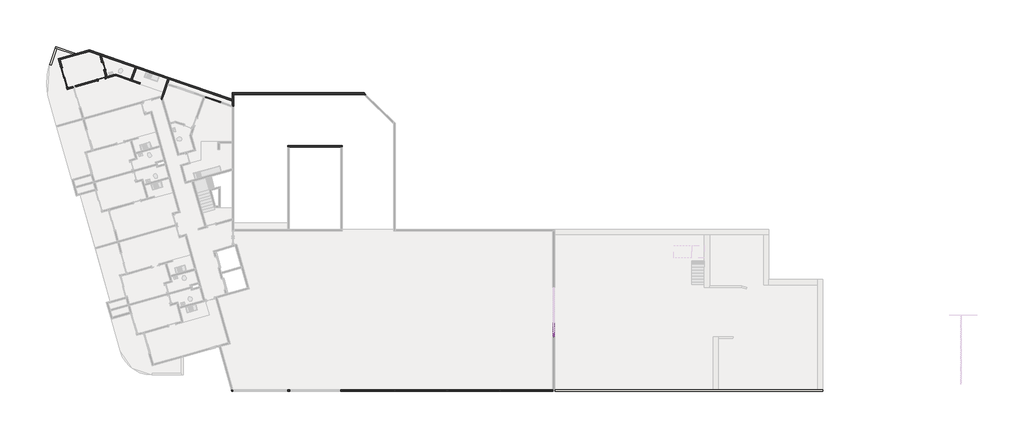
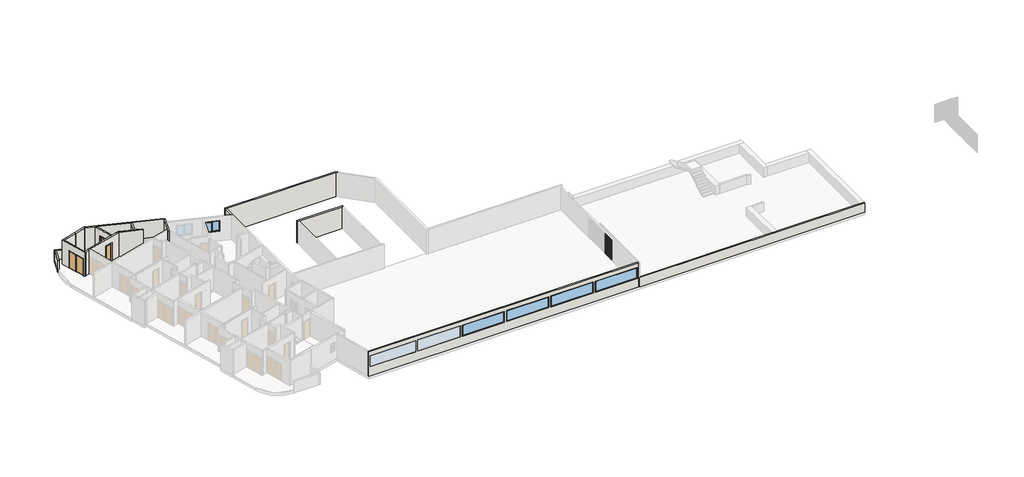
# One storey, part 3 of 9: 35 plates, 33 members, 18 walls, 5 windows, 3 doors.
"""IFC4 building model written with IfcOpenShell, lengths in millimetres."""

from ifc_helpers import new_model, si_unit, frame, origin, place, context, project, spatial, polyline, outline, extrude, faceted_brep, transform, mapped, element, save
from components import p3_70cm_ef4d15e3, p3_70cm_0a698c7c, p4_correr_200cm_eaaa0877, montante_retangular_30mm_quadrado_b6c22345, montante_retangular_30mm_quadrado_d4df406a, montante_retangular_30mm_quadrado_2d3e9df2, montante_retangular_30mm_quadrado_921f6540, montante_retangular_30mm_quadrado_d9064eb3, montante_retangular_30mm_quadrado_c456a22c, painel_do_sistema_vazio_vazio_88ac28ff, painel_do_sistema_vazio_vazio_aac5a565, painel_do_sistema_vazio_vazio_800e51c1, painel_do_sistema_vazio_vazio_54d91eb3, jx_160cm_e9e36a0c, m_fixo1_jf_4_75m_a83b1cd6

model = new_model("IFC4")

# Units and contexts
model_context = context("Model", 3, world=origin())
ifc_project = project(units=[si_unit("LENGTHUNIT", "METRE", prefix="MILLI")], contexts=[model_context])

# Site, building, storey
site = spatial("IfcSite", under=ifc_project)
building = spatial("IfcBuilding", under=site)
storey = spatial("IfcBuildingStorey", under=building, Name="Garagem 1", Elevation=47850.0)

# Doors
placement = place(None, origin())
p3_70cm_shape = p3_70cm_ef4d15e3(model_context)
element("IfcDoor", 1, ObjectType="M_Folha única1 : P3 - 70CM", at=placement, inside=storey, context=model_context, shape_type="MappedRepresentation", body=[
    mapped(p3_70cm_shape, transform((-87513.806232, 32980.5300491, 47850.0), x_axis=(0.9623628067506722, 0.2717679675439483, 0.0), y_axis=(-0.2717679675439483, 0.9623628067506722, 0.0), z_axis=(0.0, 0.0, 1.0))),
])
p3_70cm_2_shape = p3_70cm_0a698c7c(model_context)
element("IfcDoor", 2, ObjectType="M_Folha única1 : P3 - 70CM", at=placement, inside=storey, context=model_context, shape_type="MappedRepresentation", body=[
    mapped(p3_70cm_2_shape, transform((-87314.304722, 34205.8663896, 47850.0), x_axis=(-0.2717679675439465, 0.9623628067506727, 0.0), y_axis=(-0.9623628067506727, -0.2717679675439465, 0.0), z_axis=(0.0, 0.0, 1.0))),
])
p4_correr_200cm_shape = p4_correr_200cm_eaaa0877(model_context)
element("IfcDoor", 3, ObjectType="Porta de correr dupla envidraçada sem revestimento : P4 - CORRER - 200CM", at=placement, inside=storey, context=model_context, shape_type="MappedRepresentation", body=[
    mapped(p4_correr_200cm_shape, transform((-91005.8131296, 33111.4415743, 47850.0), x_axis=(0.2717679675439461, -0.9623628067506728, 0.0), y_axis=(0.9623628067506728, 0.2717679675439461, 0.0), z_axis=(0.0, 0.0, 1.0))),
])

# Members
montante_retangular_30mm_quadrado_shape = montante_retangular_30mm_quadrado_b6c22345(model_context)
element("IfcMember", 4, ObjectType="Montante retangular : 30mm Quadrado", at=placement, inside=storey, context=model_context, shape_type="MappedRepresentation", body=[
    mapped(montante_retangular_30mm_quadrado_shape, transform((-44730.8696428, 8741.5272612, 50350.0), x_axis=(0.0, 0.0, 1.0), y_axis=(1.0, 0.0, 0.0), z_axis=(0.0, 1.0, 0.0))),
])
montante_retangular_30mm_quadrado_2_shape = montante_retangular_30mm_quadrado_d4df406a(model_context)
element("IfcMember", 5, ObjectType="Montante retangular : 30mm Quadrado", at=placement, inside=storey, context=model_context, shape_type="MappedRepresentation", body=[
    mapped(montante_retangular_30mm_quadrado_2_shape, transform((-44730.8696428, 8937.004947, 50350.0), x_axis=(0.0, 0.0, 1.0), y_axis=(1.0, 0.0, 0.0), z_axis=(0.0, 1.0, 0.0))),
])
element("IfcMember", 6, ObjectType="Montante retangular : 30mm Quadrado", at=placement, inside=storey, context=model_context, shape_type="MappedRepresentation", body=[
    mapped(montante_retangular_30mm_quadrado_2_shape, transform((-44730.8696428, 9132.4826328, 50350.0), x_axis=(0.0, 0.0, 1.0), y_axis=(1.0, 0.0, 0.0), z_axis=(0.0, 1.0, 0.0))),
])
element("IfcMember", 7, ObjectType="Montante retangular : 30mm Quadrado", at=placement, inside=storey, context=model_context, shape_type="MappedRepresentation", body=[
    mapped(montante_retangular_30mm_quadrado_2_shape, transform((-44730.8696428, 9327.9603187, 50350.0), x_axis=(0.0, 0.0, 1.0), y_axis=(1.0, 0.0, 0.0), z_axis=(0.0, 1.0, 0.0))),
])
element("IfcMember", 8, ObjectType="Montante retangular : 30mm Quadrado", at=placement, inside=storey, context=model_context, shape_type="MappedRepresentation", body=[
    mapped(montante_retangular_30mm_quadrado_2_shape, transform((-44730.8696428, 9523.4380045, 50350.0), x_axis=(0.0, 0.0, 1.0), y_axis=(1.0, 0.0, 0.0), z_axis=(0.0, 1.0, 0.0))),
])
element("IfcMember", 9, ObjectType="Montante retangular : 30mm Quadrado", at=placement, inside=storey, context=model_context, shape_type="MappedRepresentation", body=[
    mapped(montante_retangular_30mm_quadrado_2_shape, transform((-44730.8696428, 9718.9156903, 50350.0), x_axis=(0.0, 0.0, 1.0), y_axis=(1.0, 0.0, 0.0), z_axis=(0.0, 1.0, 0.0))),
])
element("IfcMember", 10, ObjectType="Montante retangular : 30mm Quadrado", at=placement, inside=storey, context=model_context, shape_type="MappedRepresentation", body=[
    mapped(montante_retangular_30mm_quadrado_2_shape, transform((-44730.8696428, 9914.3933761, 50350.0), x_axis=(0.0, 0.0, 1.0), y_axis=(1.0, 0.0, 0.0), z_axis=(0.0, 1.0, 0.0))),
])
element("IfcMember", 11, ObjectType="Montante retangular : 30mm Quadrado", at=placement, inside=storey, context=model_context, shape_type="MappedRepresentation", body=[
    mapped(montante_retangular_30mm_quadrado_shape, transform((-44730.8696428, 8591.0495751, 47850.0), x_axis=(0.0, 0.0, -1.0), y_axis=(1.0, 0.0, 0.0), z_axis=(0.0, -1.0, 0.0))),
])
element("IfcMember", 12, ObjectType="Montante retangular : 30mm Quadrado", at=placement, inside=storey, context=model_context, shape_type="MappedRepresentation", body=[
    mapped(montante_retangular_30mm_quadrado_2_shape, transform((-44730.8696428, 8771.5272612, 47850.0), x_axis=(0.0, 0.0, -1.0), y_axis=(1.0, 0.0, 0.0), z_axis=(0.0, -1.0, 0.0))),
])
element("IfcMember", 13, ObjectType="Montante retangular : 30mm Quadrado", at=placement, inside=storey, context=model_context, shape_type="MappedRepresentation", body=[
    mapped(montante_retangular_30mm_quadrado_2_shape, transform((-44730.8696428, 8967.004947, 47850.0), x_axis=(0.0, 0.0, -1.0), y_axis=(1.0, 0.0, 0.0), z_axis=(0.0, -1.0, 0.0))),
])
montante_retangular_30mm_quadrado_3_shape = montante_retangular_30mm_quadrado_2d3e9df2(model_context)
element("IfcMember", 14, ObjectType="Montante retangular : 30mm Quadrado", at=placement, inside=storey, context=model_context, shape_type="MappedRepresentation", body=[
    mapped(montante_retangular_30mm_quadrado_3_shape, transform((-44730.8696428, 8741.5272612, 48350.0), x_axis=(0.0, 0.0, 1.0), y_axis=(1.0, 0.0, 0.0), z_axis=(0.0, 1.0, 0.0))),
])
element("IfcMember", 15, ObjectType="Montante retangular : 30mm Quadrado", at=placement, inside=storey, context=model_context, shape_type="MappedRepresentation", body=[
    mapped(montante_retangular_30mm_quadrado_3_shape, transform((-44730.8696428, 8741.5272612, 48850.0), x_axis=(0.0, 0.0, 1.0), y_axis=(1.0, 0.0, 0.0), z_axis=(0.0, 1.0, 0.0))),
])
element("IfcMember", 16, ObjectType="Montante retangular : 30mm Quadrado", at=placement, inside=storey, context=model_context, shape_type="MappedRepresentation", body=[
    mapped(montante_retangular_30mm_quadrado_3_shape, transform((-44730.8696428, 8741.5272612, 49350.0), x_axis=(0.0, 0.0, 1.0), y_axis=(1.0, 0.0, 0.0), z_axis=(0.0, 1.0, 0.0))),
])
element("IfcMember", 17, ObjectType="Montante retangular : 30mm Quadrado", at=placement, inside=storey, context=model_context, shape_type="MappedRepresentation", body=[
    mapped(montante_retangular_30mm_quadrado_3_shape, transform((-44730.8696428, 8741.5272612, 49850.0), x_axis=(0.0, 0.0, 1.0), y_axis=(1.0, 0.0, 0.0), z_axis=(0.0, 1.0, 0.0))),
])
montante_retangular_30mm_quadrado_4_shape = montante_retangular_30mm_quadrado_921f6540(model_context)
element("IfcMember", 18, ObjectType="Montante retangular : 30mm Quadrado", at=placement, inside=storey, context=model_context, shape_type="MappedRepresentation", body=[
    mapped(montante_retangular_30mm_quadrado_4_shape, transform((-44730.8696428, 8937.004947, 48350.0), x_axis=(0.0, 0.0, 1.0), y_axis=(1.0, 0.0, 0.0), z_axis=(0.0, 1.0, 0.0))),
])
element("IfcMember", 19, ObjectType="Montante retangular : 30mm Quadrado", at=placement, inside=storey, context=model_context, shape_type="MappedRepresentation", body=[
    mapped(montante_retangular_30mm_quadrado_4_shape, transform((-44730.8696428, 8937.004947, 48850.0), x_axis=(0.0, 0.0, 1.0), y_axis=(1.0, 0.0, 0.0), z_axis=(0.0, 1.0, 0.0))),
])
element("IfcMember", 20, ObjectType="Montante retangular : 30mm Quadrado", at=placement, inside=storey, context=model_context, shape_type="MappedRepresentation", body=[
    mapped(montante_retangular_30mm_quadrado_4_shape, transform((-44730.8696428, 8937.004947, 49350.0), x_axis=(0.0, 0.0, 1.0), y_axis=(1.0, 0.0, 0.0), z_axis=(0.0, 1.0, 0.0))),
])
element("IfcMember", 21, ObjectType="Montante retangular : 30mm Quadrado", at=placement, inside=storey, context=model_context, shape_type="MappedRepresentation", body=[
    mapped(montante_retangular_30mm_quadrado_4_shape, transform((-44730.8696428, 8937.004947, 49850.0), x_axis=(0.0, 0.0, 1.0), y_axis=(1.0, 0.0, 0.0), z_axis=(0.0, 1.0, 0.0))),
])
montante_retangular_30mm_quadrado_5_shape = montante_retangular_30mm_quadrado_d9064eb3(model_context)
element("IfcMember", 22, ObjectType="Montante retangular : 30mm Quadrado", at=placement, inside=storey, context=model_context, shape_type="MappedRepresentation", body=[
    mapped(montante_retangular_30mm_quadrado_5_shape, transform((-44730.8696428, 8756.5272612, 47850.0), x_axis=(0.0, 1.0, 0.0), y_axis=(1.0, 0.0, 0.0), z_axis=(0.0, 0.0, -1.0))),
])
element("IfcMember", 23, ObjectType="Montante retangular : 30mm Quadrado", at=placement, inside=storey, context=model_context, shape_type="MappedRepresentation", body=[
    mapped(montante_retangular_30mm_quadrado_5_shape, transform((-44730.8696428, 8952.004947, 47850.0), x_axis=(0.0, 1.0, 0.0), y_axis=(1.0, 0.0, 0.0), z_axis=(0.0, 0.0, -1.0))),
])
element("IfcMember", 24, ObjectType="Montante retangular : 30mm Quadrado", at=placement, inside=storey, context=model_context, shape_type="MappedRepresentation", body=[
    mapped(montante_retangular_30mm_quadrado_5_shape, transform((-44730.8696428, 8756.5272612, 48350.0), x_axis=(0.0, 1.0, 0.0), y_axis=(1.0, 0.0, 0.0), z_axis=(0.0, 0.0, -1.0))),
])
element("IfcMember", 25, ObjectType="Montante retangular : 30mm Quadrado", at=placement, inside=storey, context=model_context, shape_type="MappedRepresentation", body=[
    mapped(montante_retangular_30mm_quadrado_5_shape, transform((-44730.8696428, 8952.004947, 48350.0), x_axis=(0.0, 1.0, 0.0), y_axis=(1.0, 0.0, 0.0), z_axis=(0.0, 0.0, -1.0))),
])
element("IfcMember", 26, ObjectType="Montante retangular : 30mm Quadrado", at=placement, inside=storey, context=model_context, shape_type="MappedRepresentation", body=[
    mapped(montante_retangular_30mm_quadrado_5_shape, transform((-44730.8696428, 8756.5272612, 48850.0), x_axis=(0.0, 1.0, 0.0), y_axis=(1.0, 0.0, 0.0), z_axis=(0.0, 0.0, -1.0))),
])
element("IfcMember", 27, ObjectType="Montante retangular : 30mm Quadrado", at=placement, inside=storey, context=model_context, shape_type="MappedRepresentation", body=[
    mapped(montante_retangular_30mm_quadrado_5_shape, transform((-44730.8696428, 8952.004947, 48850.0), x_axis=(0.0, 1.0, 0.0), y_axis=(1.0, 0.0, 0.0), z_axis=(0.0, 0.0, -1.0))),
])
element("IfcMember", 28, ObjectType="Montante retangular : 30mm Quadrado", at=placement, inside=storey, context=model_context, shape_type="MappedRepresentation", body=[
    mapped(montante_retangular_30mm_quadrado_5_shape, transform((-44730.8696428, 8756.5272612, 49350.0), x_axis=(0.0, 1.0, 0.0), y_axis=(1.0, 0.0, 0.0), z_axis=(0.0, 0.0, -1.0))),
])
element("IfcMember", 29, ObjectType="Montante retangular : 30mm Quadrado", at=placement, inside=storey, context=model_context, shape_type="MappedRepresentation", body=[
    mapped(montante_retangular_30mm_quadrado_5_shape, transform((-44730.8696428, 8952.004947, 49350.0), x_axis=(0.0, 1.0, 0.0), y_axis=(1.0, 0.0, 0.0), z_axis=(0.0, 0.0, -1.0))),
])
element("IfcMember", 30, ObjectType="Montante retangular : 30mm Quadrado", at=placement, inside=storey, context=model_context, shape_type="MappedRepresentation", body=[
    mapped(montante_retangular_30mm_quadrado_5_shape, transform((-44730.8696428, 8756.5272612, 49850.0), x_axis=(0.0, 1.0, 0.0), y_axis=(1.0, 0.0, 0.0), z_axis=(0.0, 0.0, -1.0))),
])
element("IfcMember", 31, ObjectType="Montante retangular : 30mm Quadrado", at=placement, inside=storey, context=model_context, shape_type="MappedRepresentation", body=[
    mapped(montante_retangular_30mm_quadrado_5_shape, transform((-44730.8696428, 8952.004947, 49850.0), x_axis=(0.0, 1.0, 0.0), y_axis=(1.0, 0.0, 0.0), z_axis=(0.0, 0.0, -1.0))),
])
montante_retangular_30mm_quadrado_6_shape = montante_retangular_30mm_quadrado_c456a22c(model_context)
element("IfcMember", 32, ObjectType="Montante retangular : 30mm Quadrado", at=placement, inside=storey, context=model_context, shape_type="MappedRepresentation", body=[
    mapped(montante_retangular_30mm_quadrado_6_shape, transform((-44730.8696428, 8561.0495751, 50350.0), x_axis=(0.0, -1.0, 0.0), y_axis=(1.0, 0.0, 0.0), z_axis=(0.0, 0.0, 1.0))),
])
element("IfcMember", 33, ObjectType="Montante retangular : 30mm Quadrado", at=placement, inside=storey, context=model_context, shape_type="MappedRepresentation", body=[
    mapped(montante_retangular_30mm_quadrado_6_shape, transform((-44730.8696428, 8561.0495751, 48350.0), x_axis=(0.0, -1.0, 0.0), y_axis=(1.0, 0.0, 0.0), z_axis=(0.0, 0.0, 1.0))),
])
element("IfcMember", 34, ObjectType="Montante retangular : 30mm Quadrado", at=placement, inside=storey, context=model_context, shape_type="MappedRepresentation", body=[
    mapped(montante_retangular_30mm_quadrado_6_shape, transform((-44730.8696428, 8561.0495751, 48850.0), x_axis=(0.0, -1.0, 0.0), y_axis=(1.0, 0.0, 0.0), z_axis=(0.0, 0.0, 1.0))),
])
element("IfcMember", 35, ObjectType="Montante retangular : 30mm Quadrado", at=placement, inside=storey, context=model_context, shape_type="MappedRepresentation", body=[
    mapped(montante_retangular_30mm_quadrado_6_shape, transform((-44730.8696428, 8561.0495751, 49350.0), x_axis=(0.0, -1.0, 0.0), y_axis=(1.0, 0.0, 0.0), z_axis=(0.0, 0.0, 1.0))),
])
element("IfcMember", 36, ObjectType="Montante retangular : 30mm Quadrado", at=placement, inside=storey, context=model_context, shape_type="MappedRepresentation", body=[
    mapped(montante_retangular_30mm_quadrado_6_shape, transform((-44730.8696428, 8561.0495751, 49850.0), x_axis=(0.0, -1.0, 0.0), y_axis=(1.0, 0.0, 0.0), z_axis=(0.0, 0.0, 1.0))),
])

# Plates
painel_do_sistema_vazio_vazio_shape = painel_do_sistema_vazio_vazio_88ac28ff(model_context)
element("IfcPlate", 37, ObjectType="Painel do sistema vazio : Vazio", at=placement, inside=storey, context=model_context, shape_type="MappedRepresentation", body=[
    mapped(painel_do_sistema_vazio_vazio_shape, transform((-44730.8696428, 8666.2884181, 47880.0), x_axis=(0.0, 1.0, 0.0), y_axis=(-1.0, 0.0, 0.0), z_axis=(0.0, 0.0, 1.0))),
])
element("IfcPlate", 38, ObjectType="Painel do sistema vazio : Vazio", at=placement, inside=storey, context=model_context, shape_type="MappedRepresentation", body=[
    mapped(painel_do_sistema_vazio_vazio_shape, transform((-44730.8696428, 8666.2884181, 49865.0), x_axis=(0.0, 1.0, 0.0), y_axis=(-1.0, 0.0, 0.0), z_axis=(0.0, 0.0, 1.0))),
])
painel_do_sistema_vazio_vazio_2_shape = painel_do_sistema_vazio_vazio_aac5a565(model_context)
element("IfcPlate", 39, ObjectType="Painel do sistema vazio : Vazio", at=placement, inside=storey, context=model_context, shape_type="MappedRepresentation", body=[
    mapped(painel_do_sistema_vazio_vazio_2_shape, transform((-44730.8696428, 8854.2661041, 47880.0), x_axis=(0.0, 1.0, 0.0), y_axis=(-1.0, 0.0, 0.0), z_axis=(0.0, 0.0, 1.0))),
])
element("IfcPlate", 40, ObjectType="Painel do sistema vazio : Vazio", at=placement, inside=storey, context=model_context, shape_type="MappedRepresentation", body=[
    mapped(painel_do_sistema_vazio_vazio_2_shape, transform((-44730.8696428, 9049.7437899, 47880.0), x_axis=(0.0, 1.0, 0.0), y_axis=(-1.0, 0.0, 0.0), z_axis=(0.0, 0.0, 1.0))),
])
element("IfcPlate", 41, ObjectType="Painel do sistema vazio : Vazio", at=placement, inside=storey, context=model_context, shape_type="MappedRepresentation", body=[
    mapped(painel_do_sistema_vazio_vazio_2_shape, transform((-44730.8696428, 9245.2214757, 47880.0), x_axis=(0.0, 1.0, 0.0), y_axis=(-1.0, 0.0, 0.0), z_axis=(0.0, 0.0, 1.0))),
])
element("IfcPlate", 42, ObjectType="Painel do sistema vazio : Vazio", at=placement, inside=storey, context=model_context, shape_type="MappedRepresentation", body=[
    mapped(painel_do_sistema_vazio_vazio_2_shape, transform((-44730.8696428, 9440.6991616, 47880.0), x_axis=(0.0, 1.0, 0.0), y_axis=(-1.0, 0.0, 0.0), z_axis=(0.0, 0.0, 1.0))),
])
element("IfcPlate", 43, ObjectType="Painel do sistema vazio : Vazio", at=placement, inside=storey, context=model_context, shape_type="MappedRepresentation", body=[
    mapped(painel_do_sistema_vazio_vazio_2_shape, transform((-44730.8696428, 9636.1768474, 47880.0), x_axis=(0.0, 1.0, 0.0), y_axis=(-1.0, 0.0, 0.0), z_axis=(0.0, 0.0, 1.0))),
])
element("IfcPlate", 44, ObjectType="Painel do sistema vazio : Vazio", at=placement, inside=storey, context=model_context, shape_type="MappedRepresentation", body=[
    mapped(painel_do_sistema_vazio_vazio_2_shape, transform((-44730.8696428, 9831.6545332, 47880.0), x_axis=(0.0, 1.0, 0.0), y_axis=(-1.0, 0.0, 0.0), z_axis=(0.0, 0.0, 1.0))),
])
element("IfcPlate", 45, ObjectType="Painel do sistema vazio : Vazio", at=placement, inside=storey, context=model_context, shape_type="MappedRepresentation", body=[
    mapped(painel_do_sistema_vazio_vazio_2_shape, transform((-44730.8696428, 8854.2661041, 49865.0), x_axis=(0.0, 1.0, 0.0), y_axis=(-1.0, 0.0, 0.0), z_axis=(0.0, 0.0, 1.0))),
])
element("IfcPlate", 46, ObjectType="Painel do sistema vazio : Vazio", at=placement, inside=storey, context=model_context, shape_type="MappedRepresentation", body=[
    mapped(painel_do_sistema_vazio_vazio_2_shape, transform((-44730.8696428, 9049.7437899, 49865.0), x_axis=(0.0, 1.0, 0.0), y_axis=(-1.0, 0.0, 0.0), z_axis=(0.0, 0.0, 1.0))),
])
element("IfcPlate", 47, ObjectType="Painel do sistema vazio : Vazio", at=placement, inside=storey, context=model_context, shape_type="MappedRepresentation", body=[
    mapped(painel_do_sistema_vazio_vazio_2_shape, transform((-44730.8696428, 9245.2214757, 49865.0), x_axis=(0.0, 1.0, 0.0), y_axis=(-1.0, 0.0, 0.0), z_axis=(0.0, 0.0, 1.0))),
])
element("IfcPlate", 48, ObjectType="Painel do sistema vazio : Vazio", at=placement, inside=storey, context=model_context, shape_type="MappedRepresentation", body=[
    mapped(painel_do_sistema_vazio_vazio_2_shape, transform((-44730.8696428, 9440.6991616, 49865.0), x_axis=(0.0, 1.0, 0.0), y_axis=(-1.0, 0.0, 0.0), z_axis=(0.0, 0.0, 1.0))),
])
element("IfcPlate", 49, ObjectType="Painel do sistema vazio : Vazio", at=placement, inside=storey, context=model_context, shape_type="MappedRepresentation", body=[
    mapped(painel_do_sistema_vazio_vazio_2_shape, transform((-44730.8696428, 9636.1768474, 49865.0), x_axis=(0.0, 1.0, 0.0), y_axis=(-1.0, 0.0, 0.0), z_axis=(0.0, 0.0, 1.0))),
])
element("IfcPlate", 50, ObjectType="Painel do sistema vazio : Vazio", at=placement, inside=storey, context=model_context, shape_type="MappedRepresentation", body=[
    mapped(painel_do_sistema_vazio_vazio_2_shape, transform((-44730.8696428, 9831.6545332, 49865.0), x_axis=(0.0, 1.0, 0.0), y_axis=(-1.0, 0.0, 0.0), z_axis=(0.0, 0.0, 1.0))),
])
painel_do_sistema_vazio_vazio_3_shape = painel_do_sistema_vazio_vazio_800e51c1(model_context)
element("IfcPlate", 51, ObjectType="Painel do sistema vazio : Vazio", at=placement, inside=storey, context=model_context, shape_type="MappedRepresentation", body=[
    mapped(painel_do_sistema_vazio_vazio_3_shape, transform((-44730.8696428, 8666.2884181, 48365.0), x_axis=(0.0, 1.0, 0.0), y_axis=(-1.0, 0.0, 0.0), z_axis=(0.0, 0.0, 1.0))),
])
element("IfcPlate", 52, ObjectType="Painel do sistema vazio : Vazio", at=placement, inside=storey, context=model_context, shape_type="MappedRepresentation", body=[
    mapped(painel_do_sistema_vazio_vazio_3_shape, transform((-44730.8696428, 8666.2884181, 48865.0), x_axis=(0.0, 1.0, 0.0), y_axis=(-1.0, 0.0, 0.0), z_axis=(0.0, 0.0, 1.0))),
])
element("IfcPlate", 53, ObjectType="Painel do sistema vazio : Vazio", at=placement, inside=storey, context=model_context, shape_type="MappedRepresentation", body=[
    mapped(painel_do_sistema_vazio_vazio_3_shape, transform((-44730.8696428, 8666.2884181, 49365.0), x_axis=(0.0, 1.0, 0.0), y_axis=(-1.0, 0.0, 0.0), z_axis=(0.0, 0.0, 1.0))),
])
painel_do_sistema_vazio_vazio_4_shape = painel_do_sistema_vazio_vazio_54d91eb3(model_context)
element("IfcPlate", 54, ObjectType="Painel do sistema vazio : Vazio", at=placement, inside=storey, context=model_context, shape_type="MappedRepresentation", body=[
    mapped(painel_do_sistema_vazio_vazio_4_shape, transform((-44730.8696428, 8854.2661041, 48365.0), x_axis=(0.0, 1.0, 0.0), y_axis=(-1.0, 0.0, 0.0), z_axis=(0.0, 0.0, 1.0))),
])
element("IfcPlate", 55, ObjectType="Painel do sistema vazio : Vazio", at=placement, inside=storey, context=model_context, shape_type="MappedRepresentation", body=[
    mapped(painel_do_sistema_vazio_vazio_4_shape, transform((-44730.8696428, 9049.7437899, 48365.0), x_axis=(0.0, 1.0, 0.0), y_axis=(-1.0, 0.0, 0.0), z_axis=(0.0, 0.0, 1.0))),
])
element("IfcPlate", 56, ObjectType="Painel do sistema vazio : Vazio", at=placement, inside=storey, context=model_context, shape_type="MappedRepresentation", body=[
    mapped(painel_do_sistema_vazio_vazio_4_shape, transform((-44730.8696428, 9245.2214757, 48365.0), x_axis=(0.0, 1.0, 0.0), y_axis=(-1.0, 0.0, 0.0), z_axis=(0.0, 0.0, 1.0))),
])
element("IfcPlate", 57, ObjectType="Painel do sistema vazio : Vazio", at=placement, inside=storey, context=model_context, shape_type="MappedRepresentation", body=[
    mapped(painel_do_sistema_vazio_vazio_4_shape, transform((-44730.8696428, 9440.6991616, 48365.0), x_axis=(0.0, 1.0, 0.0), y_axis=(-1.0, 0.0, 0.0), z_axis=(0.0, 0.0, 1.0))),
])
element("IfcPlate", 58, ObjectType="Painel do sistema vazio : Vazio", at=placement, inside=storey, context=model_context, shape_type="MappedRepresentation", body=[
    mapped(painel_do_sistema_vazio_vazio_4_shape, transform((-44730.8696428, 9636.1768474, 48365.0), x_axis=(0.0, 1.0, 0.0), y_axis=(-1.0, 0.0, 0.0), z_axis=(0.0, 0.0, 1.0))),
])
element("IfcPlate", 59, ObjectType="Painel do sistema vazio : Vazio", at=placement, inside=storey, context=model_context, shape_type="MappedRepresentation", body=[
    mapped(painel_do_sistema_vazio_vazio_4_shape, transform((-44730.8696428, 9831.6545332, 48365.0), x_axis=(0.0, 1.0, 0.0), y_axis=(-1.0, 0.0, 0.0), z_axis=(0.0, 0.0, 1.0))),
])
element("IfcPlate", 60, ObjectType="Painel do sistema vazio : Vazio", at=placement, inside=storey, context=model_context, shape_type="MappedRepresentation", body=[
    mapped(painel_do_sistema_vazio_vazio_4_shape, transform((-44730.8696428, 8854.2661041, 48865.0), x_axis=(0.0, 1.0, 0.0), y_axis=(-1.0, 0.0, 0.0), z_axis=(0.0, 0.0, 1.0))),
])
element("IfcPlate", 61, ObjectType="Painel do sistema vazio : Vazio", at=placement, inside=storey, context=model_context, shape_type="MappedRepresentation", body=[
    mapped(painel_do_sistema_vazio_vazio_4_shape, transform((-44730.8696428, 9049.7437899, 48865.0), x_axis=(0.0, 1.0, 0.0), y_axis=(-1.0, 0.0, 0.0), z_axis=(0.0, 0.0, 1.0))),
])
element("IfcPlate", 62, ObjectType="Painel do sistema vazio : Vazio", at=placement, inside=storey, context=model_context, shape_type="MappedRepresentation", body=[
    mapped(painel_do_sistema_vazio_vazio_4_shape, transform((-44730.8696428, 9245.2214757, 48865.0), x_axis=(0.0, 1.0, 0.0), y_axis=(-1.0, 0.0, 0.0), z_axis=(0.0, 0.0, 1.0))),
])
element("IfcPlate", 63, ObjectType="Painel do sistema vazio : Vazio", at=placement, inside=storey, context=model_context, shape_type="MappedRepresentation", body=[
    mapped(painel_do_sistema_vazio_vazio_4_shape, transform((-44730.8696428, 9440.6991616, 48865.0), x_axis=(0.0, 1.0, 0.0), y_axis=(-1.0, 0.0, 0.0), z_axis=(0.0, 0.0, 1.0))),
])
element("IfcPlate", 64, ObjectType="Painel do sistema vazio : Vazio", at=placement, inside=storey, context=model_context, shape_type="MappedRepresentation", body=[
    mapped(painel_do_sistema_vazio_vazio_4_shape, transform((-44730.8696428, 9636.1768474, 48865.0), x_axis=(0.0, 1.0, 0.0), y_axis=(-1.0, 0.0, 0.0), z_axis=(0.0, 0.0, 1.0))),
])
element("IfcPlate", 65, ObjectType="Painel do sistema vazio : Vazio", at=placement, inside=storey, context=model_context, shape_type="MappedRepresentation", body=[
    mapped(painel_do_sistema_vazio_vazio_4_shape, transform((-44730.8696428, 9831.6545332, 48865.0), x_axis=(0.0, 1.0, 0.0), y_axis=(-1.0, 0.0, 0.0), z_axis=(0.0, 0.0, 1.0))),
])
element("IfcPlate", 66, ObjectType="Painel do sistema vazio : Vazio", at=placement, inside=storey, context=model_context, shape_type="MappedRepresentation", body=[
    mapped(painel_do_sistema_vazio_vazio_4_shape, transform((-44730.8696428, 8854.2661041, 49365.0), x_axis=(0.0, 1.0, 0.0), y_axis=(-1.0, 0.0, 0.0), z_axis=(0.0, 0.0, 1.0))),
])
element("IfcPlate", 67, ObjectType="Painel do sistema vazio : Vazio", at=placement, inside=storey, context=model_context, shape_type="MappedRepresentation", body=[
    mapped(painel_do_sistema_vazio_vazio_4_shape, transform((-44730.8696428, 9049.7437899, 49365.0), x_axis=(0.0, 1.0, 0.0), y_axis=(-1.0, 0.0, 0.0), z_axis=(0.0, 0.0, 1.0))),
])
element("IfcPlate", 68, ObjectType="Painel do sistema vazio : Vazio", at=placement, inside=storey, context=model_context, shape_type="MappedRepresentation", body=[
    mapped(painel_do_sistema_vazio_vazio_4_shape, transform((-44730.8696428, 9245.2214757, 49365.0), x_axis=(0.0, 1.0, 0.0), y_axis=(-1.0, 0.0, 0.0), z_axis=(0.0, 0.0, 1.0))),
])
element("IfcPlate", 69, ObjectType="Painel do sistema vazio : Vazio", at=placement, inside=storey, context=model_context, shape_type="MappedRepresentation", body=[
    mapped(painel_do_sistema_vazio_vazio_4_shape, transform((-44730.8696428, 9440.6991616, 49365.0), x_axis=(0.0, 1.0, 0.0), y_axis=(-1.0, 0.0, 0.0), z_axis=(0.0, 0.0, 1.0))),
])
element("IfcPlate", 70, ObjectType="Painel do sistema vazio : Vazio", at=placement, inside=storey, context=model_context, shape_type="MappedRepresentation", body=[
    mapped(painel_do_sistema_vazio_vazio_4_shape, transform((-44730.8696428, 9636.1768474, 49365.0), x_axis=(0.0, 1.0, 0.0), y_axis=(-1.0, 0.0, 0.0), z_axis=(0.0, 0.0, 1.0))),
])
element("IfcPlate", 71, ObjectType="Painel do sistema vazio : Vazio", at=placement, inside=storey, context=model_context, shape_type="MappedRepresentation", body=[
    mapped(painel_do_sistema_vazio_vazio_4_shape, transform((-44730.8696428, 9831.6545332, 49365.0), x_axis=(0.0, 1.0, 0.0), y_axis=(-1.0, 0.0, 0.0), z_axis=(0.0, 0.0, 1.0))),
])

# Walls
element("IfcWall", 72, ObjectType="Básica .15 - Externa", at=placement, inside=storey, context=model_context, shape_type="Brep", body=[
    faceted_brep([(-88662.6343714, 35591.588263, 47850.0), (-87688.240739, 35254.0477389, 47850.0), (-87515.4733556, 35194.1992432, 47850.0), (-84326.6881589, 34089.5694606, 47850.0), (-84184.9515116, 34040.4703485, 47850.0), (-81226.8582774, 33015.7547641, 47850.0), (-81156.3583355, 32991.3328194, 47850.0), (-81156.3583355, 32991.3328194, 49150.0), (-81085.1216301, 32966.655652, 49150.0), (-81085.1216301, 32966.655652, 50450.0), (-81156.3583355, 32991.3328194, 50450.0), (-81156.3583355, 32991.3328194, 50750.0), (-81226.8582774, 33015.7547641, 50750.0), (-84184.9515116, 34040.4703485, 50750.0), (-84326.6881589, 34089.5694606, 50750.0), (-87515.4733556, 35194.1992432, 50750.0), (-87688.240739, 35254.0477389, 50750.0), (-88662.6343714, 35591.588263, 50750.0), (-88658.0562773, 35748.7474739, 47850.0), (-88658.0562773, 35748.7474739, 50750.0), (-81107.2592234, 33133.0694667, 50750.0), (-81107.2592234, 33133.0694667, 50450.0), (-81036.022518, 33108.3922993, 50450.0), (-81036.022518, 33108.3922993, 49150.0), (-81107.2592234, 33133.0694667, 49150.0), (-81107.2592234, 33133.0694667, 47850.0)], [[[0, 1, 2, 3, 4, 5, 6, 7, 8, 9, 10, 11, 12, 13, 14, 15, 16, 17]], [[18, 19, 20, 21, 22, 23, 24, 25]], [[6, 5, 4, 3, 2, 1, 0, 18, 25]], [[17, 16, 15, 14, 13, 12, 11, 20, 19]], [[0, 17, 19, 18]], [[7, 6, 25, 24]], [[23, 8, 7, 24]], [[11, 10, 21, 20]], [[21, 10, 9, 22]], [[9, 8, 23, 22]]]),
])
element("IfcWall", 73, ObjectType="Básica .15 -  Interna", at=placement, inside=storey, context=model_context, shape_type="Brep", body=[
    faceted_brep([(-81789.2550074, 30934.0017027, 47850.0), (-81703.3880158, 31181.8778654, 47850.0), (-81272.8781344, 32424.6503839, 47850.0), (-81223.7790223, 32566.3870312, 47850.0), (-81085.1216301, 32966.655652, 47850.0), (-81085.1216301, 32966.655652, 49150.0), (-81085.1216301, 32966.655652, 50450.0), (-81085.1216301, 32966.655652, 50750.0), (-81223.7790223, 32566.3870312, 50750.0), (-81272.8781344, 32424.6503839, 50750.0), (-81703.3880158, 31181.8778654, 50750.0), (-81789.2550074, 30934.0017027, 50750.0), (-81860.5472267, 31186.4559595, 47850.0), (-81860.5472267, 31186.4559595, 50750.0), (-81845.4155775, 31230.1371819, 50750.0), (-81785.5670817, 31402.9045654, 50750.0), (-81226.8582774, 33015.7547641, 50750.0), (-81226.8582774, 33015.7547641, 47850.0), (-81785.5670817, 31402.9045654, 47850.0), (-81845.4155775, 31230.1371819, 47850.0), (-81156.3583355, 32991.3328194, 47850.0), (-81156.3583355, 32991.3328194, 50750.0)], [[[0, 1, 2, 3, 4, 5, 6, 7, 8, 9, 10, 11]], [[12, 13, 14, 15, 16, 17, 18, 19]], [[4, 3, 2, 1, 0, 12, 19, 18, 17, 20]], [[11, 10, 9, 8, 7, 21, 16, 15, 14, 13]], [[0, 11, 13, 12]], [[4, 20, 17, 16, 21, 7, 6, 5]]]),
])
element("IfcWall", 74, ObjectType="Básica .15 -  Interna", at=placement, inside=storey, context=model_context, shape_type="Brep", body=[
    faceted_brep([(-91449.9950574, 34960.3135045, 50750.0), (-91409.2298622, 34815.9590835, 50750.0), (-90661.8679515, 32169.4613651, 50750.0), (-90621.1027564, 32025.1069441, 50750.0), (-90621.1027564, 32025.1069441, 47850.0), (-90661.8679515, 32169.4613651, 47850.0), (-90661.8679515, 32169.4613651, 49950.0), (-91205.4038866, 34094.1869786, 49950.0), (-91205.4038866, 34094.1869786, 47850.0), (-91409.2298622, 34815.9590835, 47850.0), (-91449.9950574, 34960.3135045, 47850.0), (-90765.4571774, 31984.341749, 50750.0), (-91594.3494784, 34919.5483093, 50750.0), (-91594.3494784, 34919.5483093, 47850.0), (-91349.7583076, 34053.4217835, 47850.0), (-91349.7583076, 34053.4217835, 49950.0), (-90806.2223725, 32128.69617, 49950.0), (-90806.2223725, 32128.69617, 47850.0), (-90765.4571774, 31984.341749, 47850.0)], [[[0, 1, 2, 3, 4, 5, 6, 7, 8, 9, 10]], [[11, 12, 13, 14, 15, 16, 17, 18]], [[4, 18, 17, 5]], [[13, 10, 9, 8, 14]], [[3, 2, 1, 0, 12, 11]], [[4, 3, 11, 18]], [[16, 6, 5, 17]], [[6, 16, 15, 7]], [[7, 15, 14, 8]], [[0, 10, 13, 12]]]),
])
element("IfcWall", 75, ObjectType="Básica .15 - Externa", at=placement, inside=storey, context=model_context, shape_type="Brep", body=[
    faceted_brep([(-91871.4376954, 35923.0920443, 47550.0), (-91729.7010481, 35873.9929322, 47550.0), (-90151.0501028, 35327.1311202, 47550.0), (-90151.0501028, 35327.1311202, 48950.0), (-91729.7010481, 35873.9929322, 48950.0), (-91871.4376954, 35923.0920443, 48950.0), (-91822.3385833, 36064.8286916, 47550.0), (-91822.3385833, 36064.8286916, 48950.0), (-89898.595846, 35398.4233395, 48950.0), (-89898.595846, 35398.4233395, 47550.0)], [[[0, 1, 2, 3, 4, 5]], [[6, 7, 8, 9]], [[2, 1, 0, 6, 9]], [[5, 4, 3, 8, 7]], [[0, 5, 7, 6]], [[3, 2, 9, 8]]]),
])
element("IfcWall", 76, ObjectType="Básica .15 - Externa", at=placement, inside=storey, context=model_context, shape_type="SweptSolid", body=[
    extrude(outline(polyline([(-91729.7010481, 35873.9929322), (-92280.2794148, 34284.6132387), (-92422.0160621, 34333.7123509), (-91871.4376954, 35923.0920443), (-91729.7010481, 35873.9929322)])), frame((0.0, 0.0, 47550.0), z_axis=(0.0, 0.0, 1.0), x_axis=(1.0, 0.0, 0.0)), (0.0, 0.0, 1.0), 1400.0),
])
element("IfcWall", 77, ObjectType="Básica .15 - Externa", at=placement, inside=storey, context=model_context, shape_type="SweptSolid", body=[
    extrude(outline(polyline([(-89921.2674906, 35392.0209445), (-88658.0562773, 35748.7474739), (-88662.6343714, 35591.588263), (-89880.5022955, 35247.6665235), (-89921.2674906, 35392.0209445)])), frame((0.0, 0.0, 47850.0), z_axis=(0.0, 0.0, 1.0), x_axis=(1.0, 0.0, 0.0)), (0.0, 0.0, 1.0), 2900.0),
])
element("IfcWall", 78, ObjectType="Básica .15 -  Interna", at=placement, inside=storey, context=model_context, shape_type="Brep", body=[
    faceted_brep([(-90184.5077758, 32304.2662473, 47850.0), (-90661.8679515, 32169.4613651, 47850.0), (-90661.8679515, 32169.4613651, 49950.0), (-90661.8679515, 32169.4613651, 50750.0), (-90184.5077758, 32304.2662473, 50750.0), (-90143.7425806, 32159.9118263, 47850.0), (-90143.7425806, 32159.9118263, 49950.0), (-90143.7425806, 32159.9118263, 50750.0), (-90621.1027564, 32025.1069441, 50750.0), (-90621.1027564, 32025.1069441, 47850.0)], [[[0, 1, 2, 3, 4]], [[5, 6, 7, 8, 9]], [[1, 0, 5, 9]], [[4, 3, 8, 7]], [[0, 4, 7, 6, 5]], [[3, 2, 1, 9, 8]]]),
])
element("IfcWall", 79, ObjectType="Básica .15 - Externa", at=placement, inside=storey, context=model_context, shape_type="Brep", body=[
    faceted_brep([(-81156.3583355, 32991.3328194, 49150.0), (-81156.3583355, 32991.3328194, 47850.0), (-81156.3583355, 32991.3328194, 47550.0), (-81085.1216301, 32966.655652, 47550.0), (-75147.8282189, 30909.9128092, 47550.0), (-75147.8282189, 30909.9128092, 49150.0), (-81085.1216301, 32966.655652, 49150.0), (-81107.2592234, 33133.0694667, 47550.0), (-81107.2592234, 33133.0694667, 47850.0), (-81107.2592234, 33133.0694667, 49150.0), (-81036.022518, 33108.3922993, 49150.0), (-75147.8282189, 31068.6579216, 49150.0), (-75147.8282189, 31068.6579216, 47550.0), (-81036.022518, 33108.3922993, 47550.0)], [[[0, 1, 2, 3, 4, 5, 6]], [[7, 8, 9, 10, 11, 12, 13]], [[4, 3, 2, 7, 13, 12]], [[0, 6, 5, 11, 10, 9]], [[0, 9, 8, 7, 2, 1]], [[4, 12, 11, 5]]]),
])
element("IfcWall", 80, ObjectType="Básica .15 -  Interna", at=placement, inside=storey, context=model_context, shape_type="SweptSolid", body=[
    extrude(outline(polyline([(-91449.9950574, 34960.3135045), (-89921.2674906, 35392.0209445), (-89880.5022955, 35247.6665235), (-91409.2298622, 34815.9590835), (-91449.9950574, 34960.3135045)])), frame((0.0, 0.0, 47850.0), z_axis=(0.0, 0.0, 1.0), x_axis=(1.0, 0.0, 0.0)), (0.0, 0.0, 1.0), 2900.0),
])
element("IfcWall", 81, ObjectType="Básica .15 -  Interna", at=placement, inside=storey, context=model_context, shape_type="Brep", body=[
    faceted_brep([(-83821.815623, 32644.7152387, 47850.0), (-84577.7444086, 32906.57717, 47850.0), (-84719.4810559, 32955.6762822, 47850.0), (-86137.8721095, 33447.0223292, 47850.0), (-86137.8721095, 33447.0223292, 50750.0), (-84719.4810559, 32955.6762822, 50750.0), (-84577.7444086, 32906.57717, 50750.0), (-83821.815623, 32644.7152387, 50750.0), (-83870.9147351, 32502.9785914, 47850.0), (-83870.9147351, 32502.9785914, 50750.0), (-86142.4502035, 33289.8631183, 50750.0), (-86390.3263662, 33375.7301099, 50750.0), (-86390.3263662, 33375.7301099, 47850.0), (-86142.4502035, 33289.8631183, 47850.0)], [[[0, 1, 2, 3, 4, 5, 6, 7]], [[8, 9, 10, 11, 12, 13]], [[3, 2, 1, 0, 8, 13, 12]], [[7, 6, 5, 4, 11, 10, 9]], [[0, 7, 9, 8]], [[4, 3, 12, 11]]]),
])
element("IfcWall", 82, ObjectType="Básica .15 -  Interna", at=placement, inside=storey, context=model_context, shape_type="Brep", body=[
    faceted_brep([(-86390.3263662, 33375.7301099, 47850.0), (-86956.7711455, 33215.7680402, 47850.0), (-87101.1255666, 33175.002845, 47850.0), (-87197.3618472, 33147.8260483, 47850.0), (-87197.3618472, 33147.8260483, 49950.0), (-87871.015812, 32957.588471, 49950.0), (-87871.015812, 32957.588471, 47850.0), (-90040.1533547, 32345.0314424, 47850.0), (-90040.1533547, 32345.0314424, 50750.0), (-87101.1255666, 33175.002845, 50750.0), (-86956.7711455, 33215.7680402, 50750.0), (-86390.3263662, 33375.7301099, 50750.0), (-87156.5966521, 33003.4716273, 49950.0), (-87156.5966521, 33003.4716273, 47850.0), (-86142.4502035, 33289.8631183, 47850.0), (-86142.4502035, 33289.8631183, 50750.0), (-89999.3881596, 32200.6770214, 50750.0), (-89999.3881596, 32200.6770214, 49950.0), (-89999.3881596, 32200.6770214, 47850.0), (-87830.2506168, 32813.23405, 47850.0), (-87830.2506168, 32813.23405, 49950.0)], [[[0, 1, 2, 3, 4, 5, 6, 7, 8, 9, 10, 11]], [[12, 13, 14, 15, 16, 17, 18, 19, 20]], [[19, 18, 7, 6]], [[14, 13, 3, 2, 1, 0]], [[11, 10, 9, 8, 16, 15]], [[4, 3, 13, 12]], [[5, 4, 12, 20]], [[6, 5, 20, 19]], [[0, 11, 15, 14]], [[8, 7, 18, 17, 16]]]),
])
element("IfcWall", 83, ObjectType="Básica .15 -  Interna", at=placement, inside=storey, context=model_context, shape_type="SweptSolid", body=[
    extrude(outline(polyline([(-84184.9515116, 34040.4703485), (-84577.7444086, 32906.57717), (-84719.4810559, 32955.6762822), (-84326.6881589, 34089.5694606), (-84184.9515116, 34040.4703485)])), frame((0.0, 0.0, 47850.0), z_axis=(0.0, 0.0, 1.0), x_axis=(1.0, 0.0, 0.0)), (0.0, 0.0, 1.0), 2900.0),
])
element("IfcWall", 84, ObjectType="Básica .15 -  Interna", at=placement, inside=storey, context=model_context, shape_type="Brep", body=[
    faceted_brep([(-87337.2463001, 34563.0759696, 49950.0), (-87337.2463001, 34563.0759696, 47850.0), (-87515.4733556, 35194.1992432, 47850.0), (-87515.4733556, 35194.1992432, 50750.0), (-86956.7711455, 33215.7680402, 50750.0), (-86956.7711455, 33215.7680402, 47850.0), (-87147.0087228, 33889.4220048, 47850.0), (-87147.0087228, 33889.4220048, 49950.0), (-87688.240739, 35254.0477389, 47850.0), (-87481.6007211, 34522.3107744, 47850.0), (-87481.6007211, 34522.3107744, 49950.0), (-87291.3631438, 33848.6568097, 49950.0), (-87291.3631438, 33848.6568097, 47850.0), (-87101.1255666, 33175.002845, 47850.0), (-87101.1255666, 33175.002845, 50750.0), (-87688.240739, 35254.0477389, 50750.0)], [[[0, 1, 2, 3, 4, 5, 6, 7]], [[8, 9, 10, 11, 12, 13, 14, 15]], [[6, 5, 13, 12]], [[2, 1, 9, 8]], [[4, 3, 15, 14]], [[10, 9, 1, 0]], [[11, 10, 0, 7]], [[12, 11, 7, 6]], [[5, 4, 14, 13]], [[3, 2, 8, 15]]]),
])
element("IfcWall", 85, ObjectType="Básica .15 - Externa", at=placement, inside=storey, context=model_context, shape_type="Brep", body=[
    faceted_brep([(-75147.8282189, 31523.8506069, 47850.0), (-74997.8282189, 31523.8506069, 47850.0), (-62701.4234226, 31523.8506069, 47850.0), (-62488.2173225, 31523.8506069, 47850.0), (-62488.2173225, 31523.8506069, 50750.0), (-62701.4234226, 31523.8506069, 50750.0), (-74997.8282189, 31523.8506069, 50750.0), (-75147.8282189, 31523.8506069, 50750.0), (-75147.8282189, 31673.8506069, 47850.0), (-75147.8282189, 31673.8506069, 50750.0), (-62639.732474, 31673.8506069, 50750.0), (-62639.732474, 31673.8506069, 47850.0)], [[[0, 1, 2, 3, 4, 5, 6, 7]], [[8, 9, 10, 11]], [[3, 2, 1, 0, 8, 11]], [[7, 6, 5, 4, 10, 9]], [[4, 3, 11, 10]], [[0, 7, 9, 8]]]),
])
element("IfcWall", 86, ObjectType="Básica .15 - Externa", at=placement, inside=storey, context=model_context, shape_type="Brep", body=[
    faceted_brep([(-75195.6613336, 3411.0495751, 47850.0), (-44805.8696428, 3411.0495751, 47850.0), (-44805.8696428, 3411.0495751, 50750.0), (-75195.6613336, 3411.0495751, 50750.0), (-69925.8696428, 3411.0495751, 48950.0), (-75025.8696428, 3411.0495751, 48950.0), (-75025.8696428, 3411.0495751, 50250.0), (-69925.8696428, 3411.0495751, 50250.0), (-44925.8696428, 3411.0495751, 48950.0), (-49675.8696428, 3411.0495751, 48950.0), (-49675.8696428, 3411.0495751, 50250.0), (-44925.8696428, 3411.0495751, 50250.0), (-59925.8696428, 3411.0495751, 48950.0), (-64675.8696428, 3411.0495751, 48950.0), (-64675.8696428, 3411.0495751, 50250.0), (-59925.8696428, 3411.0495751, 50250.0), (-49925.8696428, 3411.0495751, 48950.0), (-54675.8696428, 3411.0495751, 48950.0), (-54675.8696428, 3411.0495751, 50250.0), (-49925.8696428, 3411.0495751, 50250.0), (-54925.8696428, 3411.0495751, 48950.0), (-59675.8696428, 3411.0495751, 48950.0), (-59675.8696428, 3411.0495751, 50250.0), (-54925.8696428, 3411.0495751, 50250.0), (-64925.8696428, 3411.0495751, 48950.0), (-69675.8696428, 3411.0495751, 48950.0), (-69675.8696428, 3411.0495751, 50250.0), (-64925.8696428, 3411.0495751, 50250.0), (-75238.0208209, 3561.0495751, 47850.0), (-75238.0208209, 3561.0495751, 50750.0), (-75082.1544481, 3561.0495751, 50750.0), (-44805.8696428, 3561.0495751, 50750.0), (-44805.8696428, 3561.0495751, 47850.0), (-75082.1544481, 3561.0495751, 47850.0), (-69925.8696428, 3561.0495751, 48950.0), (-69925.8696428, 3561.0495751, 50250.0), (-75025.8696428, 3561.0495751, 50250.0), (-75025.8696428, 3561.0495751, 48950.0), (-44925.8696428, 3561.0495751, 48950.0), (-44925.8696428, 3561.0495751, 50250.0), (-49675.8696428, 3561.0495751, 50250.0), (-49675.8696428, 3561.0495751, 48950.0), (-59925.8696428, 3561.0495751, 48950.0), (-59925.8696428, 3561.0495751, 50250.0), (-64675.8696428, 3561.0495751, 50250.0), (-64675.8696428, 3561.0495751, 48950.0), (-49925.8696428, 3561.0495751, 48950.0), (-49925.8696428, 3561.0495751, 50250.0), (-54675.8696428, 3561.0495751, 50250.0), (-54675.8696428, 3561.0495751, 48950.0), (-54925.8696428, 3561.0495751, 48950.0), (-54925.8696428, 3561.0495751, 50250.0), (-59675.8696428, 3561.0495751, 50250.0), (-59675.8696428, 3561.0495751, 48950.0), (-64925.8696428, 3561.0495751, 48950.0), (-64925.8696428, 3561.0495751, 50250.0), (-69675.8696428, 3561.0495751, 50250.0), (-69675.8696428, 3561.0495751, 48950.0)], [[[0, 1, 2, 3], [4, 5, 6, 7], [8, 9, 10, 11], [12, 13, 14, 15], [16, 17, 18, 19], [20, 21, 22, 23], [24, 25, 26, 27]], [[28, 29, 30, 31, 32, 33], [34, 35, 36, 37], [38, 39, 40, 41], [42, 43, 44, 45], [46, 47, 48, 49], [50, 51, 52, 53], [54, 55, 56, 57]], [[1, 0, 28, 33, 32]], [[3, 2, 31, 30, 29]], [[0, 3, 29, 28]], [[35, 34, 4, 7]], [[36, 35, 7, 6]], [[37, 36, 6, 5]], [[34, 37, 5, 4]], [[39, 38, 8, 11]], [[40, 39, 11, 10]], [[41, 40, 10, 9]], [[38, 41, 9, 8]], [[43, 42, 12, 15]], [[44, 43, 15, 14]], [[45, 44, 14, 13]], [[42, 45, 13, 12]], [[47, 46, 16, 19]], [[48, 47, 19, 18]], [[49, 48, 18, 17]], [[46, 49, 17, 16]], [[51, 50, 20, 23]], [[52, 51, 23, 22]], [[53, 52, 22, 21]], [[50, 53, 21, 20]], [[55, 54, 24, 27]], [[56, 55, 27, 26]], [[57, 56, 26, 25]], [[54, 57, 25, 24]], [[1, 32, 31, 2]]]),
])
element("IfcWall", 87, ObjectType="Básica .15 -  Interna", at=placement, inside=storey, context=model_context, shape_type="Brep", body=[
    faceted_brep([(-69878.6137209, 26523.5266097, 47850.0), (-69728.6137209, 26523.5266097, 47850.0), (-64878.6137209, 26523.5266097, 47850.0), (-64728.6137209, 26523.5266097, 47850.0), (-64728.6137209, 26523.5266097, 50450.0), (-64878.6137209, 26523.5266097, 50450.0), (-69728.6137209, 26523.5266097, 50450.0), (-69878.6137209, 26523.5266097, 50450.0), (-69878.6137209, 26673.5266097, 47850.0), (-69878.6137209, 26673.5266097, 50450.0), (-64728.6137209, 26673.5266097, 50450.0), (-64728.6137209, 26673.5266097, 47850.0)], [[[0, 1, 2, 3, 4, 5, 6, 7]], [[8, 9, 10, 11]], [[3, 2, 1, 0, 8, 11]], [[7, 6, 5, 4, 10, 9]], [[4, 3, 11, 10]], [[0, 7, 9, 8]]]),
])
element("IfcWall", 88, ObjectType="Básica .15 - Externa", at=placement, inside=storey, context=model_context, shape_type="Brep", body=[
    faceted_brep([(-44655.8696428, 3411.0495751, 47850.0), (-19278.6137209, 3411.0495751, 47850.0), (-19278.6137209, 3411.0495751, 48950.0), (-44655.8696428, 3411.0495751, 48950.0), (-44655.8696428, 3561.0495751, 47850.0), (-44655.8696428, 3561.0495751, 48950.0), (-29655.8696428, 3561.0495751, 48950.0), (-29155.8696428, 3561.0495751, 48950.0), (-19778.6137209, 3561.0495751, 48950.0), (-19278.6137209, 3561.0495751, 48950.0), (-19278.6137209, 3561.0495751, 47850.0), (-19778.6137209, 3561.0495751, 47850.0), (-29155.8696428, 3561.0495751, 47850.0), (-29655.8696428, 3561.0495751, 47850.0)], [[[0, 1, 2, 3]], [[4, 5, 6, 7, 8, 9, 10, 11, 12, 13]], [[1, 0, 4, 13, 12, 11, 10]], [[3, 2, 9, 8, 7, 6, 5]], [[2, 1, 10, 9]], [[0, 3, 5, 4]]]),
])
element("IfcWall", 89, ObjectType="Básica .15 - Externa", at=placement, inside=storey, context=model_context, shape_type="Brep", body=[
    faceted_brep([(-74997.8282189, 30356.258394, 47850.0), (-74997.8282189, 31523.8506069, 47850.0), (-74997.8282189, 31523.8506069, 50750.0), (-74997.8282189, 30356.258394, 50750.0), (-75147.8282189, 30356.258394, 47850.0), (-75147.8282189, 30356.258394, 50750.0), (-75147.8282189, 30461.6117638, 50750.0), (-75147.8282189, 31523.8506069, 50750.0), (-75147.8282189, 31523.8506069, 47850.0), (-75147.8282189, 30461.6117638, 47850.0)], [[[0, 1, 2, 3]], [[4, 5, 6, 7, 8, 9]], [[1, 0, 4, 9, 8]], [[3, 2, 7, 6, 5]], [[0, 3, 5, 4]], [[2, 1, 8, 7]]]),
])

# Windows
jx_160cm_shape = jx_160cm_e9e36a0c(model_context)
element("IfcWindow", 90, ObjectType="Janela de correr - 2 Painéis : JX - 160CM", at=placement, inside=storey, context=model_context, shape_type="MappedRepresentation", body=[
    mapped(jx_160cm_shape, transform((-76975.3616272, 31015.3166045, 48300.0), x_axis=(-0.9449109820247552, 0.3273274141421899, 0.0), y_axis=(-0.3273274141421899, -0.9449109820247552, 0.0), z_axis=(0.0, 0.0, 1.0))),
])
m_fixo1_jf_4_75m_shape = m_fixo1_jf_4_75m_a83b1cd6(model_context)
element("IfcWindow", 91, ObjectType="M_Fixo1 : JF - 4.75m", at=placement, inside=storey, context=model_context, shape_type="MappedRepresentation", body=[
    mapped(m_fixo1_jf_4_75m_shape, transform((-57300.8696428, 3499.0495751, 48035.0), x_axis=(-1.0, 0.0, 0.0), y_axis=(0.0, -1.0, 0.0), z_axis=(0.0, 0.0, 1.0))),
])
element("IfcWindow", 92, ObjectType="M_Fixo1 : JF - 4.75m", at=placement, inside=storey, context=model_context, shape_type="MappedRepresentation", body=[
    mapped(m_fixo1_jf_4_75m_shape, transform((-52300.8696428, 3499.0495751, 48035.0), x_axis=(-1.0, 0.0, 0.0), y_axis=(0.0, -1.0, 0.0), z_axis=(0.0, 0.0, 1.0))),
])
element("IfcWindow", 93, ObjectType="M_Fixo1 : JF - 4.75m", at=placement, inside=storey, context=model_context, shape_type="MappedRepresentation", body=[
    mapped(m_fixo1_jf_4_75m_shape, transform((-62300.8696428, 3499.0495751, 48035.0), x_axis=(-1.0, 0.0, 0.0), y_axis=(0.0, -1.0, 0.0), z_axis=(0.0, 0.0, 1.0))),
])
element("IfcWindow", 94, ObjectType="M_Fixo1 : JF - 4.75m", at=placement, inside=storey, context=model_context, shape_type="MappedRepresentation", body=[
    mapped(m_fixo1_jf_4_75m_shape, transform((-47300.8696428, 3499.0495751, 48035.0), x_axis=(-1.0, 0.0, 0.0), y_axis=(0.0, -1.0, 0.0), z_axis=(0.0, 0.0, 1.0))),
])

save(model, "model.ifc")
